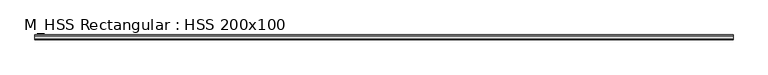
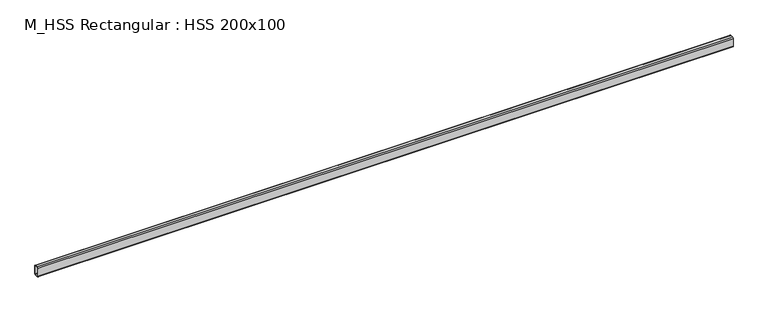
"""IFC4 building model written with IfcOpenShell, lengths in millimetres: beam geometry, M_HSS Rectangular : HSS 200x100."""

from ifc_helpers import new_model, si_unit, point, frame, frame_2d, origin, place, context, project, spatial, polyline, circle_curve, trimmed, segment, composite_curve, outline, extrude, source, transform, mapped, element, save


def m_hss_rectangular_hss_200x100_8d3a1cac(model_context):
    return source(origin(), model_context, "Body", "SweptSolid", [
        extrude(outline(composite_curve([segment(trimmed(circle_curve(frame_2d((-30.94, 80.94)), 19.06), [point((-50.0, 80.94))], [point((-30.94, 100.0))], False, "CARTESIAN"), True, "CONTINUOUS"), segment(polyline([(-30.94, 100.0), (30.94, 100.0)]), True, "CONTINUOUS"), segment(trimmed(circle_curve(frame_2d((30.94, 80.94)), 19.06), [point((30.94, 100.0))], [point((50.0, 80.94))], False, "CARTESIAN"), True, "CONTINUOUS"), segment(polyline([(50.0, 80.94), (50.0, -80.94)]), True, "CONTINUOUS"), segment(trimmed(circle_curve(frame_2d((30.94, -80.94)), 19.06), [point((50.0, -80.94))], [point((30.94, -100.0))], False, "CARTESIAN"), True, "CONTINUOUS"), segment(polyline([(30.94, -100.0), (-30.94, -100.0)]), True, "CONTINUOUS"), segment(trimmed(circle_curve(frame_2d((-30.94, -80.94)), 19.06), [point((-30.94, -100.0))], [point((-50.0, -80.94))], False, "CARTESIAN"), True, "CONTINUOUS"), segment(polyline([(-50.0, -80.94), (-50.0, 80.94)]), True, "CONTINUOUS")], self_intersect=False), holes=[composite_curve([segment(polyline([(30.94, 90.47), (-30.94, 90.47)]), True, "CONTINUOUS"), segment(trimmed(circle_curve(frame_2d((-30.94, 80.94)), 9.53), [point((-30.94, 90.47))], [point((-40.47, 80.94))], True, "CARTESIAN"), True, "CONTINUOUS"), segment(polyline([(-40.47, 80.94), (-40.47, -80.94)]), True, "CONTINUOUS"), segment(trimmed(circle_curve(frame_2d((-30.94, -80.94)), 9.53), [point((-40.47, -80.94))], [point((-30.94, -90.47))], True, "CARTESIAN"), True, "CONTINUOUS"), segment(polyline([(-30.94, -90.47), (30.94, -90.47)]), True, "CONTINUOUS"), segment(trimmed(circle_curve(frame_2d((30.94, -80.94)), 9.53), [point((30.94, -90.47))], [point((40.47, -80.94))], True, "CARTESIAN"), True, "CONTINUOUS"), segment(polyline([(40.47, -80.94), (40.47, 80.94)]), True, "CONTINUOUS"), segment(trimmed(circle_curve(frame_2d((30.94, 80.94)), 9.53), [point((40.47, 80.94))], [point((30.94, 90.47))], True, "CARTESIAN"), True, "CONTINUOUS")], self_intersect=False)]), frame((-6897.25, 0.0, 0.0), z_axis=(1.0, 0.0, 0.0), x_axis=(0.0, 1.0, 0.0)), (0.0, 0.0, 1.0), 13807.2),
    ])


if __name__ == "__main__":
    model = new_model("IFC4")
    model_context = context("Model", 3, world=origin())
    ifc_project = project(units=[si_unit("LENGTHUNIT", "METRE", prefix="MILLI")], contexts=[model_context])
    site = spatial("IfcSite", under=ifc_project)
    building = spatial("IfcBuilding", under=site)
    placement = place(None, origin())
    m_hss_rectangular_hss_200x100_shape = m_hss_rectangular_hss_200x100_8d3a1cac(model_context)
    element("IfcBeam", 1, ObjectType="M_HSS Rectangular : HSS 200x100", at=placement, inside=building, context=model_context, shape_type="MappedRepresentation", body=[
        mapped(m_hss_rectangular_hss_200x100_shape, transform((0.0, 0.0, 0.0), x_axis=(1.0, 0.0, 0.0), y_axis=(0.0, 1.0, 0.0), z_axis=(0.0, 0.0, 1.0))),
    ])
    save(model, "model.ifc")
